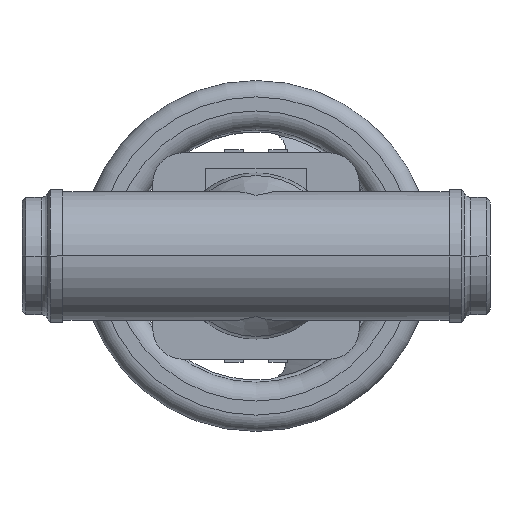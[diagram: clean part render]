
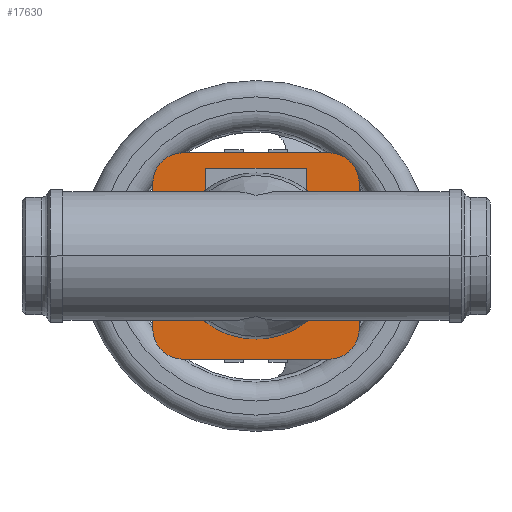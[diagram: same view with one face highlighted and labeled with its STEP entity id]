
A CAD part, front view. The second image highlights one B-rep face of the part: STEP entity #17630.
In plain terms, the highlighted planar face has unit normal (0, -1, 0).
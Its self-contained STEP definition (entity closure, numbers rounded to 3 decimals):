
#1010=CARTESIAN_POINT('',(100.,68.3,-35.5));
#1020=VERTEX_POINT('',#1010);
#1800=CARTESIAN_POINT('',(126.565,68.3,
-23.549));
#1810=VERTEX_POINT('',#1800);
#1840=CARTESIAN_POINT('',(100.,68.3,0.));
#1850=DIRECTION('',(0.,-1.,0.));
#1860=DIRECTION('',(0.,0.,1.));
#1870=AXIS2_PLACEMENT_3D('',#1840,#1850,#1860);
#1880=CIRCLE('',#1870,35.5);
#1890=EDGE_CURVE('',#1020,#1810,#1880,.T.);
#10610=CARTESIAN_POINT('',(144.113,68.3,
-12.173));
#10620=VERTEX_POINT('',#10610);
#10650=CARTESIAN_POINT('',(115.607,68.3,0.));
#10660=DIRECTION('',(0.,1.,0.));
#10670=DIRECTION('',(1.,0.,0.));
#10680=AXIS2_PLACEMENT_3D('',#10650,#10660,#10670);
#10690=ELLIPSE('',#10680,32.635,25.);
#10700=EDGE_CURVE('',#10620,#1810,#10690,.T.);
#16630=CARTESIAN_POINT('',(100.,68.3,46.75));
#16640=DIRECTION('',(0.,-1.,0.));
#16650=DIRECTION('',(0.,0.,1.));
#16660=AXIS2_PLACEMENT_3D('',#16630,#16640,#16650);
#16670=PLANE('',#16660);
#16680=CARTESIAN_POINT('',(126.565,68.3,
23.549));
#16690=VERTEX_POINT('',#16680);
#16700=CARTESIAN_POINT('',(100.,68.3,35.5));
#16710=VERTEX_POINT('',#16700);
#16720=EDGE_CURVE('',#16690,#16710,#1880,.T.);
#16730=ORIENTED_EDGE('',*,*,#16720,.F.);
#16740=EDGE_CURVE('',#16710,#1020,#1880,.T.);
#16750=ORIENTED_EDGE('',*,*,#16740,.F.);
#16760=ORIENTED_EDGE('',*,*,#1890,.F.);
#16770=ORIENTED_EDGE('',*,*,#10700,.T.);
#16780=CARTESIAN_POINT('',(144.113,68.3,
7.819));
#16790=DIRECTION('',(0.,0.,1.));
#16800=VECTOR('',#16790,1.);
#16810=LINE('',#16780,#16800);
#16820=CARTESIAN_POINT('',(144.113,68.3,
-31.113));
#16830=VERTEX_POINT('',#16820);
#16840=EDGE_CURVE('',#16830,#10620,#16810,.T.);
#16850=ORIENTED_EDGE('',*,*,#16840,.T.);
#16860=CARTESIAN_POINT('',(131.113,68.3,
-31.113));
#16870=DIRECTION('',(0.,-1.,0.));
#16880=DIRECTION('',(1.,0.,0.));
#16890=AXIS2_PLACEMENT_3D('',#16860,#16870,#16880);
#16900=CIRCLE('',#16890,13.);
#16910=CARTESIAN_POINT('',(131.113,68.3,
-44.113));
#16920=VERTEX_POINT('',#16910);
#16930=EDGE_CURVE('',#16920,#16830,#16900,.T.);
#16940=ORIENTED_EDGE('',*,*,#16930,.T.);
#16950=CARTESIAN_POINT('',(84.444,68.3,
-44.113));
#16960=DIRECTION('',(1.,0.,0.));
#16970=VECTOR('',#16960,1.);
#16980=LINE('',#16950,#16970);
#16990=CARTESIAN_POINT('',(68.887,68.3,
-44.113));
#17000=VERTEX_POINT('',#16990);
#17010=EDGE_CURVE('',#17000,#16920,#16980,.T.);
#17020=ORIENTED_EDGE('',*,*,#17010,.T.);
#17030=CARTESIAN_POINT('',(68.887,68.3,
-31.113));
#17040=DIRECTION('',(0.,-1.,0.));
#17050=DIRECTION('',(0.,0.,-1.));
#17060=AXIS2_PLACEMENT_3D('',#17030,#17040,#17050);
#17070=CIRCLE('',#17060,13.);
#17080=CARTESIAN_POINT('',(55.887,68.3,
-31.113));
#17090=VERTEX_POINT('',#17080);
#17100=EDGE_CURVE('',#17090,#17000,#17070,.T.);
#17110=ORIENTED_EDGE('',*,*,#17100,.T.);
#17120=CARTESIAN_POINT('',(55.887,68.3,
38.931));
#17130=DIRECTION('',(0.,0.,-1.));
#17140=VECTOR('',#17130,1.);
#17150=LINE('',#17120,#17140);
#17160=CARTESIAN_POINT('',(55.887,68.3,
31.113));
#17170=VERTEX_POINT('',#17160);
#17180=EDGE_CURVE('',#17170,#17090,#17150,.T.);
#17190=ORIENTED_EDGE('',*,*,#17180,.T.);
#17200=CARTESIAN_POINT('',(68.887,68.3,
31.113));
#17210=DIRECTION('',(0.,-1.,0.));
#17220=DIRECTION('',(-1.,0.,0.));
#17230=AXIS2_PLACEMENT_3D('',#17200,#17210,#17220);
#17240=CIRCLE('',#17230,13.);
#17250=CARTESIAN_POINT('',(68.887,68.3,
44.113));
#17260=VERTEX_POINT('',#17250);
#17270=EDGE_CURVE('',#17260,#17170,#17240,.T.);
#17280=ORIENTED_EDGE('',*,*,#17270,.T.);
#17290=CARTESIAN_POINT('',(115.556,68.3,
44.113));
#17300=DIRECTION('',(-1.,0.,0.));
#17310=VECTOR('',#17300,1.);
#17320=LINE('',#17290,#17310);
#17330=CARTESIAN_POINT('',(131.113,68.3,
44.113));
#17340=VERTEX_POINT('',#17330);
#17350=EDGE_CURVE('',#17340,#17260,#17320,.T.);
#17360=ORIENTED_EDGE('',*,*,#17350,.T.);
#17370=CARTESIAN_POINT('',(131.113,68.3,
31.113));
#17380=DIRECTION('',(0.,-1.,0.));
#17390=DIRECTION('',(0.,0.,1.));
#17400=AXIS2_PLACEMENT_3D('',#17370,#17380,#17390);
#17410=CIRCLE('',#17400,13.);
#17420=CARTESIAN_POINT('',(144.113,68.3,
31.113));
#17430=VERTEX_POINT('',#17420);
#17440=EDGE_CURVE('',#17430,#17340,#17410,.T.);
#17450=ORIENTED_EDGE('',*,*,#17440,.T.);
#17460=CARTESIAN_POINT('',(144.113,68.3,
7.819));
#17470=DIRECTION('',(0.,0.,1.));
#17480=VECTOR('',#17470,1.);
#17490=LINE('',#17460,#17480);
#17500=CARTESIAN_POINT('',(144.113,68.3,
12.173));
#17510=VERTEX_POINT('',#17500);
#17520=EDGE_CURVE('',#17510,#17430,#17490,.T.);
#17530=ORIENTED_EDGE('',*,*,#17520,.T.);
#17540=CARTESIAN_POINT('',(115.607,68.3,0.));
#17550=DIRECTION('',(0.,1.,0.));
#17560=DIRECTION('',(1.,0.,0.));
#17570=AXIS2_PLACEMENT_3D('',#17540,#17550,#17560);
#17580=ELLIPSE('',#17570,32.635,25.);
#17590=EDGE_CURVE('',#16690,#17510,#17580,.T.);
#17600=ORIENTED_EDGE('',*,*,#17590,.T.);
#17610=EDGE_LOOP('',(#17600,#17530,#17450,#17360,#17280,#17190,#17110,
#17020,#16940,#16850,#16770,#16760,#16750,#16730));
#17620=FACE_OUTER_BOUND('',#17610,.T.);
#17630=ADVANCED_FACE('',(#17620),#16670,.T.);
